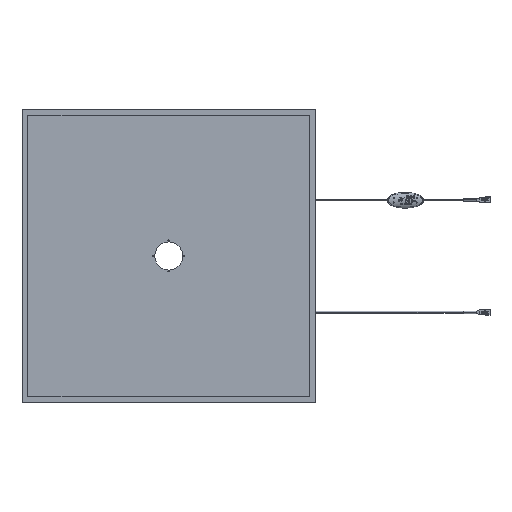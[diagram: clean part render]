
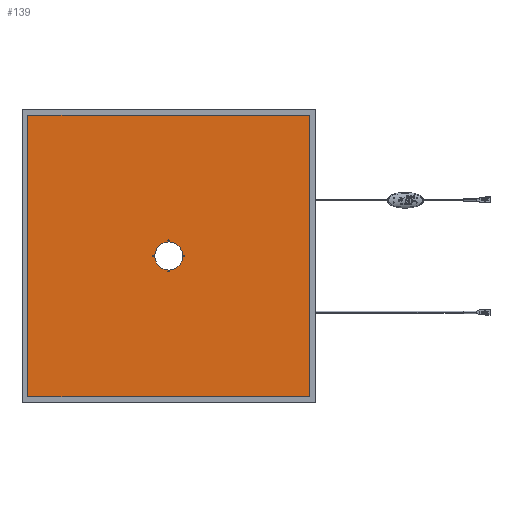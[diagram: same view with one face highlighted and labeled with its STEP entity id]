
A CAD part, top view. The second image highlights one B-rep face of the part: STEP entity #139.
In plain terms, the highlighted planar face has unit normal (0, 0, 1).
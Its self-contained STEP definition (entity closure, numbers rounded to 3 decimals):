
#25=CARTESIAN_POINT('',(155.21,130.21,35.25));
#26=VERTEX_POINT('',#25);
#27=CARTESIAN_POINT('',(155.21,155.21,35.25));
#28=DIRECTION('',(0.,-1.,0.));
#29=DIRECTION('',(0.,0.,1.));
#30=AXIS2_PLACEMENT_3D('',#27,#29,#28);
#31=CIRCLE('',#30,25.);
#32=EDGE_CURVE('',#26,#26,#31,.T.);
#53=CARTESIAN_POINT('',(155.21,155.21,35.25));
#54=DIRECTION('',(0.,-1.,0.));
#55=DIRECTION('',(-0.,0.,1.));
#56=AXIS2_PLACEMENT_3D('',#53,#55,#54);
#57=PLANE('',#56);
#58=CARTESIAN_POINT('',(408.21,408.21,35.25));
#59=VERTEX_POINT('',#58);
#60=CARTESIAN_POINT('',(-97.79,408.21,35.25));
#61=VERTEX_POINT('',#60);
#62=CARTESIAN_POINT('',(408.21,408.21,35.25));
#63=DIRECTION('',(-1.,0.,0.));
#64=VECTOR('',#63,506.);
#65=LINE('',#62,#64);
#66=EDGE_CURVE('',#59,#61,#65,.T.);
#67=ORIENTED_EDGE('',*,*,#66,.T.);
#68=CARTESIAN_POINT('',(-97.79,-97.79,35.25));
#69=VERTEX_POINT('',#68);
#70=CARTESIAN_POINT('',(-97.79,408.21,35.25));
#71=DIRECTION('',(0.,-1.,0.));
#72=VECTOR('',#71,506.);
#73=LINE('',#70,#72);
#74=EDGE_CURVE('',#61,#69,#73,.T.);
#75=ORIENTED_EDGE('',*,*,#74,.T.);
#76=CARTESIAN_POINT('',(408.21,-97.79,35.25));
#77=VERTEX_POINT('',#76);
#78=CARTESIAN_POINT('',(-97.79,-97.79,35.25));
#79=DIRECTION('',(1.,0.,0.));
#80=VECTOR('',#79,506.);
#81=LINE('',#78,#80);
#82=EDGE_CURVE('',#69,#77,#81,.T.);
#83=ORIENTED_EDGE('',*,*,#82,.T.);
#84=CARTESIAN_POINT('',(408.21,-97.79,35.25));
#85=DIRECTION('',(0.,1.,0.));
#86=VECTOR('',#85,506.);
#87=LINE('',#84,#86);
#88=EDGE_CURVE('',#77,#59,#87,.T.);
#89=ORIENTED_EDGE('',*,*,#88,.T.);
#90=EDGE_LOOP('',(#67,#75,#83,#89));
#91=FACE_OUTER_BOUND('',#90,.T.);
#92=ORIENTED_EDGE('',*,*,#32,.F.);
#93=EDGE_LOOP('',(#92));
#94=FACE_BOUND('',#93,.T.);
#95=CARTESIAN_POINT('',(183.71,155.21,35.25));
#96=VERTEX_POINT('',#95);
#97=CARTESIAN_POINT('',(182.21,155.21,35.25));
#98=DIRECTION('',(1.,0.,-0.));
#99=DIRECTION('',(0.,-0.,1.));
#100=AXIS2_PLACEMENT_3D('',#97,#99,#98);
#101=CIRCLE('',#100,1.5);
#102=EDGE_CURVE('',#96,#96,#101,.T.);
#103=ORIENTED_EDGE('',*,*,#102,.F.);
#104=EDGE_LOOP('',(#103));
#105=FACE_BOUND('',#104,.T.);
#106=CARTESIAN_POINT('',(129.71,155.21,35.25));
#107=VERTEX_POINT('',#106);
#108=CARTESIAN_POINT('',(128.21,155.21,35.25));
#109=DIRECTION('',(1.,0.,-0.));
#110=DIRECTION('',(0.,0.,1.));
#111=AXIS2_PLACEMENT_3D('',#108,#110,#109);
#112=CIRCLE('',#111,1.5);
#113=EDGE_CURVE('',#107,#107,#112,.T.);
#114=ORIENTED_EDGE('',*,*,#113,.F.);
#115=EDGE_LOOP('',(#114));
#116=FACE_BOUND('',#115,.T.);
#117=CARTESIAN_POINT('',(156.71,128.21,35.25));
#118=VERTEX_POINT('',#117);
#119=CARTESIAN_POINT('',(155.21,128.21,35.25));
#120=DIRECTION('',(1.,0.,-0.));
#121=DIRECTION('',(0.,0.,1.));
#122=AXIS2_PLACEMENT_3D('',#119,#121,#120);
#123=CIRCLE('',#122,1.5);
#124=EDGE_CURVE('',#118,#118,#123,.T.);
#125=ORIENTED_EDGE('',*,*,#124,.F.);
#126=EDGE_LOOP('',(#125));
#127=FACE_BOUND('',#126,.T.);
#128=CARTESIAN_POINT('',(156.71,182.21,35.25));
#129=VERTEX_POINT('',#128);
#130=CARTESIAN_POINT('',(155.21,182.21,35.25));
#131=DIRECTION('',(1.,0.,0.));
#132=DIRECTION('',(0.,0.,1.));
#133=AXIS2_PLACEMENT_3D('',#130,#132,#131);
#134=CIRCLE('',#133,1.5);
#135=EDGE_CURVE('',#129,#129,#134,.T.);
#136=ORIENTED_EDGE('',*,*,#135,.F.);
#137=EDGE_LOOP('',(#136));
#138=FACE_BOUND('',#137,.T.);
#139=ADVANCED_FACE('',(#91,#94,#105,#116,#127,#138),#57,.T.);
